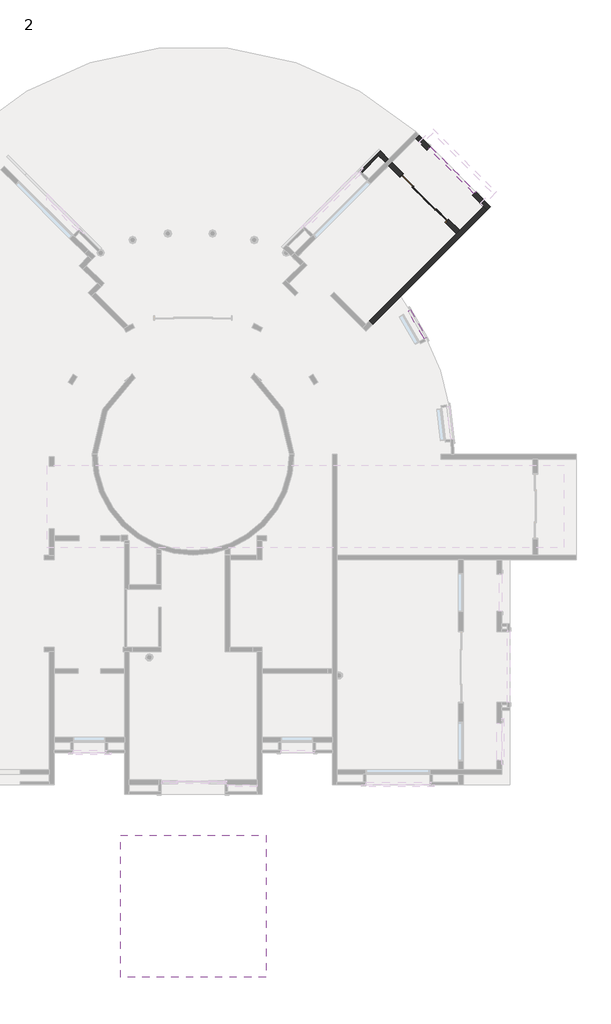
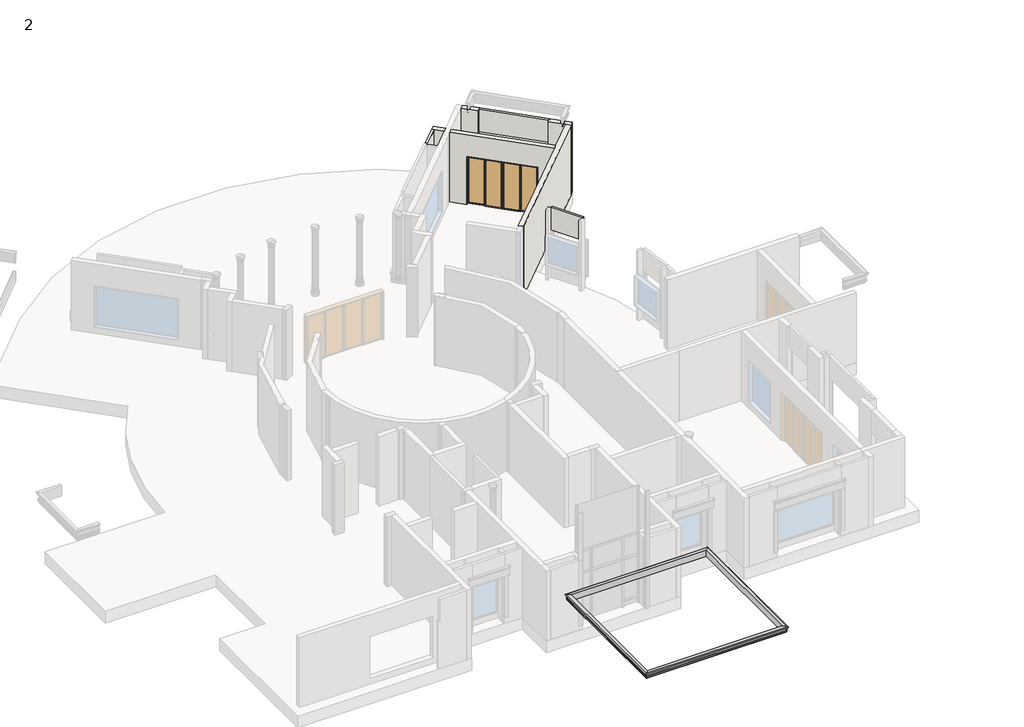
# One storey, part 5 of 10: 8 walls, 1 door, 1 proxy.
"""IFC4 building model written with IfcOpenShell, lengths in millimetres."""

from ifc_helpers import new_model, si_unit, frame, origin, place, context, project, spatial, polyline, circle_curve, ellipse_curve, outline, extrude, faceted_brep, transform, mapped, element, save
from ifc_brep_helpers import plane_surface, cylinder_surface, revolved_surface, advanced_brep
from components import aus_sliding_door_4_panel_type_3_7ec97240

model = new_model("IFC4")

# Units and contexts
model_context = context("Model", 3, world=origin())
ifc_project = project(units=[si_unit("LENGTHUNIT", "METRE", prefix="MILLI")], contexts=[model_context])

# Site, building, storey
site = spatial("IfcSite", under=ifc_project)
building = spatial("IfcBuilding", under=site)
storey = spatial("IfcBuildingStorey", under=building, Name="2", Elevation=0.0)

# Proxy
placement = place(None, origin())
element("IfcBuildingElementProxy", 1, Name="moulding", ObjectType="moulding", at=placement, inside=storey, context=model_context, shape_type="AdvancedBrep", body=[
    advanced_brep(
    [(-5111.9950906, -17793.2193311, 3657.6), (-4959.5950906, -17640.8193311, 3657.6), (-11817.5950906, -17640.8193311, 3657.6), (-11665.1950906, -17793.2193311, 3657.6), (-5111.9950906, -17793.2193311, 3352.8), (-11665.1950906, -17793.2193311, 3352.8), (-5007.4491115, -17688.6733521, 3352.8), (-11769.7410696, -17688.6733521, 3352.8), (-5007.4491115, -17688.6733521, 3378.2), (-11769.7410696, -17688.6733521, 3378.2), (-4967.8400951, -17649.0643357, 3405.9345319), (-11809.350086, -17649.0643357, 3405.9345319), (-4967.8400951, -17649.0643357, 3492.5), (-11809.350086, -17649.0643357, 3492.5), (-4952.8055633, -17634.0298038, 3492.5), (-11824.3846179, -17634.0298038, 3492.5), (-4952.8055633, -17634.0298038, 3509.7168567), (-11824.3846179, -17634.0298038, 3509.7168567), (-4940.1055633, -17621.3298038, 3594.1), (-11837.0846179, -17621.3298038, 3594.1), (-11817.5950906, -24346.4193311, 3657.6), (-11665.1950906, -24194.0193311, 3657.6), (-11665.1950906, -24194.0193311, 3352.8), (-11769.7410696, -24298.5653102, 3352.8), (-11769.7410696, -24298.5653102, 3378.2), (-11809.350086, -24338.1743266, 3405.9345319), (-11809.350086, -24338.1743266, 3492.5), (-11824.3846179, -24353.2088584, 3492.5), (-11824.3846179, -24353.2088584, 3509.7168567), (-11837.0846179, -24365.9088584, 3594.1), (-4959.5950906, -24346.4193311, 3657.6), (-5111.9950906, -24194.0193311, 3657.6), (-5111.9950906, -24194.0193311, 3352.8), (-5007.4491115, -24298.5653102, 3352.8), (-5007.4491115, -24298.5653102, 3378.2), (-4967.8400951, -24338.1743266, 3405.9345319), (-4967.8400951, -24338.1743266, 3492.5), (-4952.8055633, -24353.2088584, 3492.5), (-4952.8055633, -24353.2088584, 3509.7168567), (-4940.1055633, -24365.9088584, 3594.1)],
    [
        (0, 1),
        (1, 2),
        (2, 3),
        (3, 0),
        (4, 0),
        (3, 5),
        (5, 4),
        (6, 4),
        (5, 7),
        (7, 6),
        (8, 6),
        (7, 9),
        (9, 8),
        (10, 8, ellipse_curve(frame((-4997.3545675, -17678.578808, 3405.9345319), z_axis=(-0.7071067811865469, 0.707106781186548, 0.0), x_axis=(0.7071067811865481, 0.7071067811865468, 0.0)), 41.739767, 29.5144723)),
        (9, 11, ellipse_curve(frame((-11779.8356137, -17678.578808, 3405.9345319), z_axis=(0.7071067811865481, 0.7071067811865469, 0.0), x_axis=(0.7071067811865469, -0.7071067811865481, 0.0)), 41.739767, 29.5144723)),
        (11, 10),
        (12, 10),
        (11, 13),
        (13, 12),
        (14, 12),
        (13, 15),
        (15, 14),
        (16, 14),
        (15, 17),
        (17, 16),
        (18, 16, ellipse_curve(frame((-4940.1055633, -17621.3298038, 3550.952728), z_axis=(0.7071067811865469, -0.707106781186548, 0.0), x_axis=(-0.7071067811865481, -0.7071067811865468, 0.0)), 61.0194573, 43.147272)),
        (17, 19, ellipse_curve(frame((-11837.0846179, -17621.3298038, 3550.952728), z_axis=(-0.7071067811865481, -0.7071067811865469, 0.0), x_axis=(-0.7071067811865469, 0.7071067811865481, 0.0)), 61.0194573, 43.147272)),
        (19, 18),
        (1, 18, ellipse_curve(frame((-4959.5950906, -17640.8193311, 3622.8591207), z_axis=(-0.7071067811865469, 0.707106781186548, 0.0), x_axis=(0.7071067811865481, 0.7071067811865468, 0.0)), 49.1310227, 34.7408793)),
        (19, 2, ellipse_curve(frame((-11817.5950906, -17640.8193311, 3622.8591207), z_axis=(0.7071067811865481, 0.7071067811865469, 0.0), x_axis=(0.7071067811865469, -0.7071067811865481, 0.0)), 49.1310227, 34.7408793)),
        (2, 20),
        (20, 21),
        (21, 3),
        (21, 22),
        (22, 5),
        (22, 23),
        (23, 7),
        (23, 24),
        (24, 9),
        (24, 25, ellipse_curve(frame((-11779.8356137, -24308.6598542, 3405.9345319), z_axis=(-0.7071067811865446, 0.7071067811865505, 0.0), x_axis=(0.7071067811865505, 0.7071067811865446, 0.0)), 41.739767, 29.5144723)),
        (25, 11),
        (25, 26),
        (26, 13),
        (26, 27),
        (27, 15),
        (27, 28),
        (28, 17),
        (28, 29, ellipse_curve(frame((-11837.0846179, -24365.9088584, 3550.952728), z_axis=(0.7071067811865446, -0.7071067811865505, 0.0), x_axis=(-0.7071067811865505, -0.7071067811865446, 0.0)), 61.0194573, 43.147272)),
        (29, 19),
        (29, 20, ellipse_curve(frame((-11817.5950906, -24346.4193311, 3622.8591207), z_axis=(-0.7071067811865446, 0.7071067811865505, 0.0), x_axis=(0.7071067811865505, 0.7071067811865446, 0.0)), 49.1310227, 34.7408793)),
        (20, 30),
        (30, 31),
        (31, 21),
        (31, 32),
        (32, 22),
        (32, 33),
        (33, 23),
        (33, 34),
        (34, 24),
        (34, 35, ellipse_curve(frame((-4997.3545675, -24308.6598542, 3405.9345319), z_axis=(-0.7071067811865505, -0.7071067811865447, 0.0), x_axis=(-0.7071067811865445, 0.7071067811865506, 0.0)), 41.739767, 29.5144723)),
        (35, 25),
        (35, 36),
        (36, 26),
        (36, 37),
        (37, 27),
        (37, 38),
        (38, 28),
        (38, 39, ellipse_curve(frame((-4940.1055633, -24365.9088584, 3550.952728), z_axis=(0.7071067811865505, 0.7071067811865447, 0.0), x_axis=(0.7071067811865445, -0.7071067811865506, 0.0)), 61.0194573, 43.147272)),
        (39, 29),
        (39, 30, ellipse_curve(frame((-4959.5950906, -24346.4193311, 3622.8591207), z_axis=(-0.7071067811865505, -0.7071067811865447, 0.0), x_axis=(-0.7071067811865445, 0.7071067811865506, 0.0)), 49.1310227, 34.7408793)),
        (30, 1),
        (0, 31),
        (4, 32),
        (6, 33),
        (8, 34),
        (10, 35),
        (12, 36),
        (14, 37),
        (16, 38),
        (18, 39),
    ],
    [
        plane_surface(frame((-4959.5950906, -17640.8193311, 3657.6), z_axis=(0.0, 0.0, 1.0), x_axis=(-1.0, 0.0, 0.0))),
        plane_surface(frame((-5111.9950906, -17793.2193311, 3657.6), z_axis=(0.0, -1.0, 0.0), x_axis=(-1.0, 0.0, 0.0))),
        plane_surface(frame((-5111.9950906, -17793.2193311, 3352.8), z_axis=(0.0, 0.0, -1.0), x_axis=(-1.0, 0.0, 0.0))),
        plane_surface(frame((-5007.4491115, -17688.6733521, 3352.8), z_axis=(0.0, 1.0, 0.0), x_axis=(-1.0, 0.0, 0.0))),
        cylinder_surface(frame((-5111.9950906, -17678.578808, 3405.9345319), z_axis=(1.0, 0.0, 0.0), x_axis=(0.0, 1.0, 0.0)), 29.5144723),
        plane_surface(frame((-4967.8400951, -17649.0643357, 3405.9345319), z_axis=(0.0, 1.0, 0.0), x_axis=(-1.0, 0.0, 0.0))),
        plane_surface(frame((-4967.8400951, -17649.0643357, 3492.5), z_axis=(0.0, 0.0, -1.0), x_axis=(-1.0, 0.0, 0.0))),
        plane_surface(frame((-4952.8055633, -17634.0298038, 3492.5), z_axis=(0.0, 1.0, 0.0), x_axis=(-1.0, 0.0, 0.0))),
        revolved_surface(polyline([(-11880.231889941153, -17578.1825318, 3550.952728), (-4896.958291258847, -17578.1825318, 3550.952728)]), (-5111.9950906, -17621.3298038, 3550.952728), (-1.0, 0.0, 0.0)),
        cylinder_surface(frame((-5111.9950906, -17640.8193311, 3622.8591207), z_axis=(1.0, 0.0, 0.0), x_axis=(0.0, 1.0, 0.0)), 34.7408793),
        plane_surface(frame((-11817.5950906, -17640.8193311, 3657.6), z_axis=(0.0, 0.0, 1.0), x_axis=(0.0, -1.0, 0.0))),
        plane_surface(frame((-11665.1950906, -17793.2193311, 3657.6), z_axis=(1.0, 0.0, 0.0), x_axis=(0.0, -1.0, 0.0))),
        plane_surface(frame((-11665.1950906, -17793.2193311, 3352.8), z_axis=(0.0, 0.0, -1.0), x_axis=(0.0, -1.0, 0.0))),
        plane_surface(frame((-11769.7410696, -17688.6733521, 3352.8), z_axis=(-1.0, 0.0, 0.0), x_axis=(0.0, -1.0, 0.0))),
        cylinder_surface(frame((-11779.8356137, -17793.2193311, 3405.9345319), z_axis=(0.0, 1.0, 0.0), x_axis=(-1.0, 0.0, 0.0)), 29.5144723),
        plane_surface(frame((-11809.350086, -17649.0643357, 3405.9345319), z_axis=(-1.0, 0.0, 0.0), x_axis=(0.0, -1.0, 0.0))),
        plane_surface(frame((-11809.350086, -17649.0643357, 3492.5), z_axis=(0.0, 0.0, -1.0), x_axis=(0.0, -1.0, 0.0))),
        plane_surface(frame((-11824.3846179, -17634.0298038, 3492.5), z_axis=(-1.0, 0.0, 0.0), x_axis=(0.0, -1.0, 0.0))),
        revolved_surface(polyline([(-11880.2318899, -24409.056130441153, 3550.952728), (-11880.2318899, -17578.182531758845, 3550.952728)]), (-11837.0846179, -17793.2193311, 3550.952728), (0.0, -1.0, 0.0)),
        cylinder_surface(frame((-11817.5950906, -17793.2193311, 3622.8591207), z_axis=(0.0, 1.0, 0.0), x_axis=(-1.0, 0.0, 0.0)), 34.7408793),
        plane_surface(frame((-11817.5950906, -24346.4193311, 3657.6), z_axis=(0.0, 0.0, 1.0), x_axis=(1.0, 0.0, 0.0))),
        plane_surface(frame((-11665.1950906, -24194.0193311, 3657.6), z_axis=(0.0, 1.0, 0.0), x_axis=(1.0, 0.0, 0.0))),
        plane_surface(frame((-11665.1950906, -24194.0193311, 3352.8), z_axis=(0.0, 0.0, -1.0), x_axis=(1.0, 0.0, 0.0))),
        plane_surface(frame((-11769.7410696, -24298.5653102, 3352.8), z_axis=(0.0, -1.0, 0.0), x_axis=(1.0, 0.0, 0.0))),
        cylinder_surface(frame((-11665.1950906, -24308.6598542, 3405.9345319), z_axis=(-1.0, 0.0, 0.0), x_axis=(0.0, -1.0, 0.0)), 29.5144723),
        plane_surface(frame((-11809.350086, -24338.1743266, 3405.9345319), z_axis=(0.0, -1.0, 0.0), x_axis=(1.0, 0.0, 0.0))),
        plane_surface(frame((-11809.350086, -24338.1743266, 3492.5), z_axis=(0.0, 0.0, -1.0), x_axis=(1.0, 0.0, 0.0))),
        plane_surface(frame((-11824.3846179, -24353.2088584, 3492.5), z_axis=(0.0, -1.0, 0.0), x_axis=(1.0, 0.0, 0.0))),
        revolved_surface(polyline([(-4896.958291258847, -24409.056130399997, 3550.952728), (-11880.231889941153, -24409.056130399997, 3550.952728)]), (-11665.1950906, -24365.9088584, 3550.952728), (1.0, 0.0, 0.0)),
        cylinder_surface(frame((-11665.1950906, -24346.4193311, 3622.8591207), z_axis=(-1.0, 0.0, 0.0), x_axis=(0.0, -1.0, 0.0)), 34.7408793),
        plane_surface(frame((-4959.5950906, -24346.4193311, 3657.6), z_axis=(0.0, 0.0, 1.0), x_axis=(0.0, 1.0, 0.0))),
        plane_surface(frame((-5111.9950906, -24194.0193311, 3657.6), z_axis=(-1.0, 0.0, 0.0), x_axis=(0.0, 1.0, 0.0))),
        plane_surface(frame((-5111.9950906, -24194.0193311, 3352.8), z_axis=(0.0, 0.0, -1.0), x_axis=(0.0, 1.0, 0.0))),
        plane_surface(frame((-5007.4491115, -24298.5653102, 3352.8), z_axis=(1.0, 0.0, 0.0), x_axis=(0.0, 1.0, 0.0))),
        cylinder_surface(frame((-4997.3545675, -24194.0193311, 3405.9345319), z_axis=(0.0, -1.0, 0.0), x_axis=(1.0, 0.0, 0.0)), 29.5144723),
        plane_surface(frame((-4967.8400951, -24338.1743266, 3405.9345319), z_axis=(1.0, 0.0, 0.0), x_axis=(0.0, 1.0, 0.0))),
        plane_surface(frame((-4967.8400951, -24338.1743266, 3492.5), z_axis=(0.0, 0.0, -1.0), x_axis=(0.0, 1.0, 0.0))),
        plane_surface(frame((-4952.8055633, -24353.2088584, 3492.5), z_axis=(1.0, 0.0, 0.0), x_axis=(0.0, 1.0, 0.0))),
        revolved_surface(polyline([(-4896.9582912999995, -17578.182531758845, 3550.952728), (-4896.9582912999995, -24409.056130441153, 3550.952728)]), (-4940.1055633, -24194.0193311, 3550.952728), (0.0, 1.0, 0.0)),
        cylinder_surface(frame((-4959.5950906, -24194.0193311, 3622.8591207), z_axis=(0.0, -1.0, 0.0), x_axis=(1.0, 0.0, 0.0)), 34.7408793),
    ],
    [
        (0, [[1, 2, 3, 4]]),
        (1, [[5, -4, 6, 7]]),
        (2, [[8, -7, 9, 10]]),
        (3, [[11, -10, 12, 13]]),
        (4, [[14, -13, 15, 16]]),
        (5, [[17, -16, 18, 19]]),
        (6, [[20, -19, 21, 22]]),
        (7, [[23, -22, 24, 25]]),
        (8, [[26, -25, 27, 28]]),
        (9, [[29, -28, 30, -2]]),
        (10, [[-3, 31, 32, 33]]),
        (11, [[-6, -33, 34, 35]]),
        (12, [[-9, -35, 36, 37]]),
        (13, [[-12, -37, 38, 39]]),
        (14, [[-15, -39, 40, 41]]),
        (15, [[-18, -41, 42, 43]]),
        (16, [[-21, -43, 44, 45]]),
        (17, [[-24, -45, 46, 47]]),
        (18, [[-27, -47, 48, 49]]),
        (19, [[-30, -49, 50, -31]]),
        (20, [[-32, 51, 52, 53]]),
        (21, [[-34, -53, 54, 55]]),
        (22, [[-36, -55, 56, 57]]),
        (23, [[-38, -57, 58, 59]]),
        (24, [[-40, -59, 60, 61]]),
        (25, [[-42, -61, 62, 63]]),
        (26, [[-44, -63, 64, 65]]),
        (27, [[-46, -65, 66, 67]]),
        (28, [[-48, -67, 68, 69]]),
        (29, [[-50, -69, 70, -51]]),
        (30, [[-52, 71, -1, 72]]),
        (31, [[-54, -72, -5, 73]]),
        (32, [[-56, -73, -8, 74]]),
        (33, [[-58, -74, -11, 75]]),
        (34, [[-60, -75, -14, 76]]),
        (35, [[-62, -76, -17, 77]]),
        (36, [[-64, -77, -20, 78]]),
        (37, [[-66, -78, -23, 79]]),
        (38, [[-68, -79, -26, 80]]),
        (39, [[-70, -80, -29, -71]]),
    ],
),
])

# Door
aus_sliding_door_4_panel_type_3_shape = aus_sliding_door_4_panel_type_3_7ec97240(model_context)
element("IfcDoor", 2, ObjectType="AUS_Sliding Door 4 Panel : Type 3", at=placement, inside=storey, context=model_context, shape_type="MappedRepresentation", body=[
    mapped(aus_sliding_door_4_panel_type_3_shape, transform((2682.3198475, 12667.9092865, 0.0), x_axis=(-0.7071067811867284, 0.7071067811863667, 0.0), y_axis=(-0.7071067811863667, -0.7071067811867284, 0.0), z_axis=(0.0, 0.0, 1.0))),
])

# Walls
element("IfcWall", 3, ObjectType="115mm BK WALL", at=placement, inside=storey, context=model_context, shape_type="Brep", body=[
    faceted_brep([(-328.4836469, 13955.1554661, 0.0), (452.7986356, 14736.4377486, 0.0), (452.7986356, 14736.4377486, 3581.4), (-328.4836469, 13955.1554661, 3581.4), (-409.305952, 14035.9777712, 3581.4), (371.9763305, 14817.2600537, 3581.4), (371.9763305, 14817.2600537, 495.3), (371.9763305, 14817.2600537, 0.0), (-377.8750556, 14067.4086676, 0.0), (-409.305952, 14035.9777712, 0.0), (-409.305952, 14035.9777712, 495.3), (-409.305952, 14035.9777712, 2438.4), (-409.305952, 14035.9777712, 2933.7)], [[[0, 1, 2, 3]], [[4, 5, 6, 7, 8, 9, 10, 11, 12]], [[1, 0, 9, 8, 7]], [[3, 2, 5, 4]], [[2, 1, 7, 6, 5]], [[9, 0, 3, 4, 12, 11, 10]]]),
])
element("IfcWall", 4, ObjectType="115mm BK WALL", at=placement, inside=storey, context=model_context, shape_type="Brep", body=[
    faceted_brep([(2836.5574812, 15098.6885177, 2438.4), (4991.8189503, 12943.4270486, 2438.4), (4991.8189503, 12943.4270486, 3581.4), (2836.5574812, 15098.6885177, 3581.4), (5072.6412554, 13024.2493537, 2438.4), (2917.3797863, 15179.5108228, 2438.4), (2917.3797863, 15179.5108228, 2933.7), (2917.3797863, 15179.5108228, 3581.4), (5072.6412554, 13024.2493537, 3581.4), (5072.6412554, 13024.2493537, 2933.7)], [[[0, 1, 2, 3]], [[4, 5, 6, 7, 8, 9]], [[1, 0, 5, 4]], [[2, 1, 4, 9, 8]], [[3, 2, 8, 7]], [[0, 3, 7, 6, 5]]]),
])
element("IfcWall", 5, ObjectType="115mm BK WALL", at=placement, inside=storey, context=model_context, shape_type="AdvancedBrep", body=[
    advanced_brep(
    [(2728.1446656, 6075.8172014, 3581.4), (1953.2043204, 7414.859223, 3581.4), (1858.0343871, 7351.5569813, 3581.4), (2625.8433795, 6024.8374322, 3581.4), (1953.2043204, 7414.859223, 2438.4), (2728.1446656, 6075.8172014, 2438.4), (2625.8433795, 6024.8374322, 2438.4), (1858.0343871, 7351.5569813, 2438.4), (2728.1446656, 6075.8172014, 2933.7), (1953.2043204, 7414.859223, 2933.7)],
    [
        (0, 1, circle_curve(frame((-8388.5950907, 536.015621, 3581.4), z_axis=(0.0, 0.0, 1.0), x_axis=(1.0, 0.0, 0.0)), 12420.6)),
        (1, 2),
        (2, 3, circle_curve(frame((-8388.5950907, 536.015621, 3581.4), z_axis=(0.0, 0.0, -1.0), x_axis=(1.0, 0.0, 0.0)), 12306.3)),
        (3, 0),
        (4, 5, circle_curve(frame((-8388.5950907, 536.015621, 2438.4), z_axis=(0.0, 0.0, -1.0), x_axis=(1.0, 0.0, 0.0)), 12420.6)),
        (5, 6),
        (6, 7, circle_curve(frame((-8388.5950907, 536.015621, 2438.4), z_axis=(0.0, 0.0, 1.0), x_axis=(1.0, 0.0, 0.0)), 12306.3)),
        (7, 4),
        (0, 8),
        (8, 5),
        (4, 9),
        (9, 1),
        (7, 2),
        (6, 3),
    ],
    [
        plane_surface(frame((4032.0049093, 536.015621, 3581.4), z_axis=(0.0, 0.0, 1.0), x_axis=(0.0, 1.0, 0.0))),
        plane_surface(frame((4032.0049093, 536.015621, 2438.4), z_axis=(0.0, 0.0, -1.0), x_axis=(0.0, -1.0, 0.0))),
        cylinder_surface(frame((-8388.5950907, 536.015621, 2438.4), z_axis=(0.0, 0.0, 1.0), x_axis=(1.0, 0.0, 0.0)), 12420.6),
        plane_surface(frame((1953.2043204, 7414.859223, 3581.4), z_axis=(-0.5538253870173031, 0.8326328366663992, 0.0), x_axis=(0.0, 0.0, -1.0))),
        revolved_surface(polyline([(3917.7049092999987, 536.015621, 2438.4), (3917.7049092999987, 536.015621, 3581.4)]), (-8388.5950907, 536.015621, 2438.4), (0.0, 0.0, -1.0)),
        plane_surface(frame((2386.4657361, 5905.5484432, 0.0), z_axis=(0.4460172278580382, -0.8950243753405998, 0.0), x_axis=(-0.8950243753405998, -0.4460172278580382, 0.0))),
    ],
    [
        (0, [[1, 2, 3, 4]]),
        (1, [[5, 6, 7, 8]]),
        (2, [[-1, 9, 10, -5, 11, 12]]),
        (3, [[-2, -12, -11, -8, 13]]),
        (4, [[-3, -13, -7, 14]]),
        (5, [[-4, -14, -6, -10, -9]]),
    ],
),
])
element("IfcWall", 6, ObjectType="230mm BK WALL", at=placement, inside=storey, context=model_context, shape_type="Brep", body=[
    faceted_brep([(2216.9198089, 15556.6815799, 0.0), (2755.7351761, 15017.8662126, 0.0), (2755.7351761, 15017.8662126, 3581.4), (2216.9198089, 15556.6815799, 3581.4), (2917.3797863, 15179.5108228, 0.0), (2378.564419, 15718.3261901, 0.0), (2378.564419, 15718.3261901, 3581.4), (2917.3797863, 15179.5108228, 3581.4), (2917.3797863, 15179.5108228, 2933.7), (2917.3797863, 15179.5108228, 2463.8), (2917.3797863, 15179.5108228, 2438.4), (2917.3797863, 15179.5108228, 330.2), (2836.5574812, 15098.6885177, 3581.4)], [[[0, 1, 2, 3]], [[4, 5, 6, 7, 8, 9, 10, 11]], [[1, 0, 5, 4]], [[2, 1, 4, 11, 10, 9, 8, 7, 12]], [[3, 2, 12, 7, 6]], [[0, 3, 6, 5]]]),
])
element("IfcWall", 7, ObjectType="230mm BK WALL", at=placement, inside=storey, context=model_context, shape_type="SweptSolid", body=[
    extrude(outline(polyline([(3850.0, -2478.4), (3850.0, 0.0), (4572.0, 0.0), (4572.0, -3581.4), (0.0, -3581.4), (0.0, 0.0), (722.0, 0.0), (722.0, -2478.4), (3850.0, -2478.4)])), frame((924.4113764, 14264.1731474, 0.0), z_axis=(0.7071067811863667, 0.7071067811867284, 0.0), x_axis=(0.7071067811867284, -0.7071067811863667, 0.0)), (0.0, 0.0, 1.0), 228.6),
])
element("IfcWall", 8, ObjectType="230mm BK WALL", at=placement, inside=storey, context=model_context, shape_type="Brep", body=[
    faceted_brep([(4910.9966452, 12862.6047436, 0.0), (5449.8120125, 12323.7893763, 0.0), (5611.4566226, 12162.1447661, 0.0), (5611.4566226, 12162.1447661, 3581.4), (5449.8120125, 12323.7893763, 3581.4), (4910.9966452, 12862.6047436, 3581.4), (5773.1012328, 12323.7893763, 0.0), (5072.6412554, 13024.2493537, 0.0), (5072.6412554, 13024.2493537, 304.8), (5072.6412554, 13024.2493537, 2438.4), (5072.6412554, 13024.2493537, 2933.7), (5072.6412554, 13024.2493537, 3581.4), (5773.1012328, 12323.7893763, 3581.4), (4991.8189503, 12943.4270486, 3581.4)], [[[0, 1, 2, 3, 4, 5]], [[6, 7, 8, 9, 10, 11, 12]], [[2, 1, 0, 7, 6]], [[5, 4, 3, 12, 11, 13]], [[0, 5, 13, 11, 10, 9, 8, 7]], [[3, 2, 6, 12]]]),
])
element("IfcWall", 9, ObjectType="230mm BK WALL", at=placement, inside=storey, context=model_context, shape_type="Brep", body=[
    faceted_brep([(5449.8120125, 12323.7893763, 0.0), (4318.9481902, 11192.925554, 0.0), (4157.30358, 11031.2809438, 0.0), (8.425252, 6882.4026159, 0.0), (8.425252, 6882.4026159, 3581.4), (4157.30358, 11031.2809438, 3581.4), (4318.9481902, 11192.925554, 3581.4), (5449.8120125, 12323.7893763, 3581.4), (5611.4566226, 12162.1447661, 0.0), (5611.4566226, 12162.1447661, 3581.4), (1500.4794478, 8051.1675913, 3581.4), (1418.9017195, 7969.589863, 3581.4), (1227.1501692, 7777.8383126, 3581.4), (1063.8841784, 7614.5723219, 3581.4), (170.0698622, 6720.7580057, 3581.4), (170.0698622, 6720.7580057, 0.0), (1063.8841784, 7614.5723219, 0.0), (1227.1501692, 7777.8383126, 0.0), (1418.9017195, 7969.589863, 0.0), (1500.4794478, 8051.1675913, 0.0)], [[[0, 1, 2, 3, 4, 5, 6, 7]], [[8, 9, 10, 11, 12, 13, 14, 15, 16, 17, 18, 19]], [[3, 2, 1, 0, 8, 19, 18, 17, 16, 15]], [[4, 3, 15, 14]], [[7, 6, 5, 4, 14, 13, 12, 11, 10, 9]], [[0, 7, 9, 8]]]),
])
element("IfcWall", 10, ObjectType="230mm BK WALL", at=placement, inside=storey, context=model_context, shape_type="Brep", body=[
    faceted_brep([(371.9763305, 14817.2600537, 0.0), (452.7986356, 14736.4377486, 0.0), (763.0926964, 14426.1436878, 0.0), (763.0926964, 14426.1436878, 3581.4), (452.7986356, 14736.4377486, 3581.4), (371.9763305, 14817.2600537, 3581.4), (371.9763305, 14817.2600537, 495.3), (924.7373066, 14587.788298, 0.0), (533.6209407, 14978.9046639, 0.0), (533.6209407, 14978.9046639, 495.3), (533.6209407, 14978.9046639, 3581.4), (924.7373066, 14587.788298, 3581.4)], [[[0, 1, 2, 3, 4, 5, 6]], [[7, 8, 9, 10, 11]], [[2, 1, 0, 8, 7]], [[5, 4, 3, 11, 10]], [[5, 10, 9, 8, 0, 6]], [[3, 2, 7, 11]]]),
])

save(model, "model.ifc")
